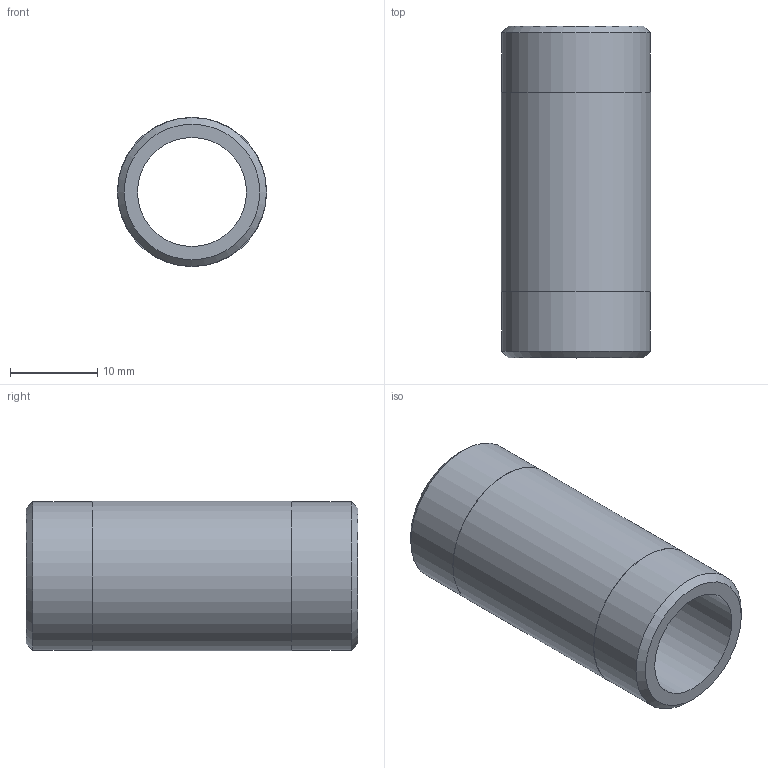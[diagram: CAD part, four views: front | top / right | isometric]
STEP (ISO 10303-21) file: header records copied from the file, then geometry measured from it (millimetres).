
FILE_DESCRIPTION(/* description */ (''),/* implementation_level */ '2;1');
FILE_NAME(/* name */ 'C:/Users/drich/Desktop/SSPN38-1-1_2 v1.step',/* time_stamp */ '2020-01-04T13:56:34-06:00',/* author */ (''),/* organization */ (''),/* preprocessor_version */ 'ST-DEVELOPER v18',/* originating_system */ 'Autodesk Translation Framework v8.12.0.6',/* authorisation */ '');
FILE_SCHEMA (('AUTOMOTIVE_DESIGN { 1 0 10303 214 3 1 1 }'));
Length unit declared in the file: inch
Products named in the file (1): SSPN38-1-1_2
Bounding box: 17.14 x 38.1 x 17.14 mm (x, y, z)
Volume: 4052.8 mm3; surface area: 3714.5 mm2
Topology: 1 solids, 1 shells, 10 faces, 24 edges, 18 vertices
Faces by surface type: cylinder 4, plane 4, cone 2
Full cylindrical faces by diameter (mm): 12.522 x1, 17.094 x2, 17.145 x1
Entity records: 353 total; most frequent: DIRECTION 64, CARTESIAN_POINT 53, ORIENTED_EDGE 48, AXIS2_PLACEMENT_3D 29, EDGE_CURVE 24, CIRCLE 18, VERTEX_POINT 18, EDGE_LOOP 14
